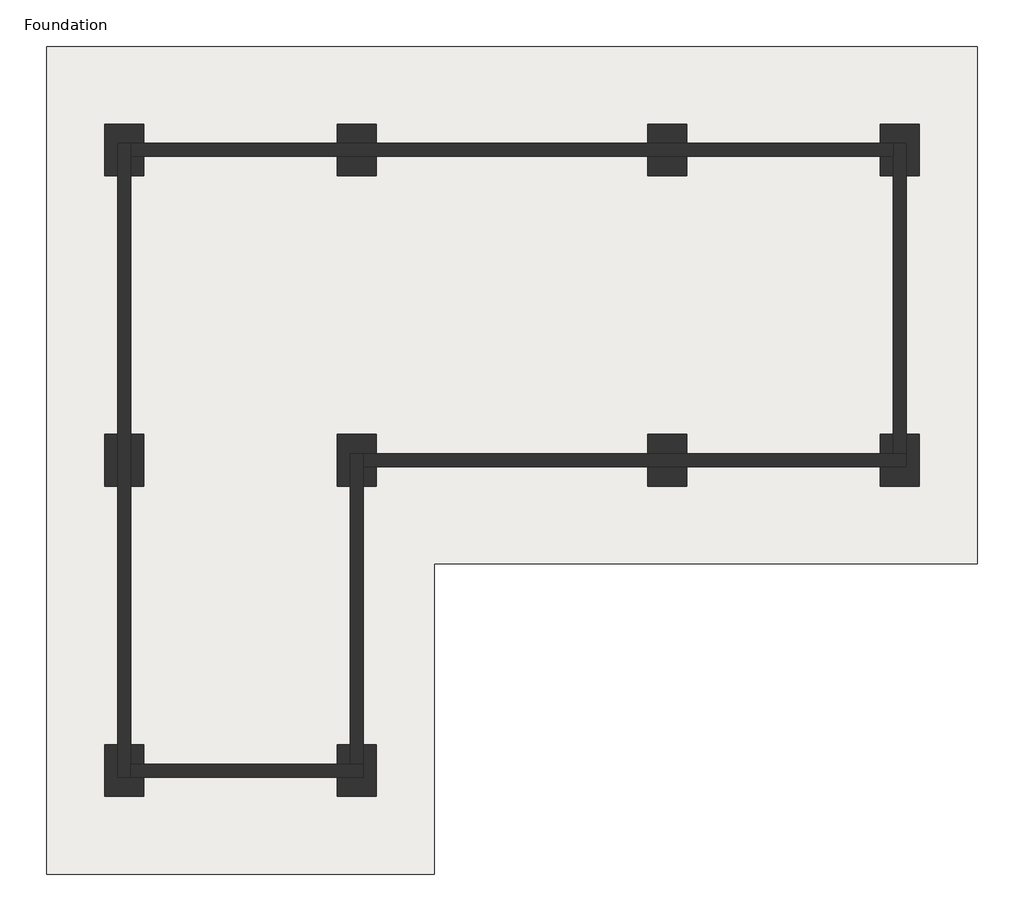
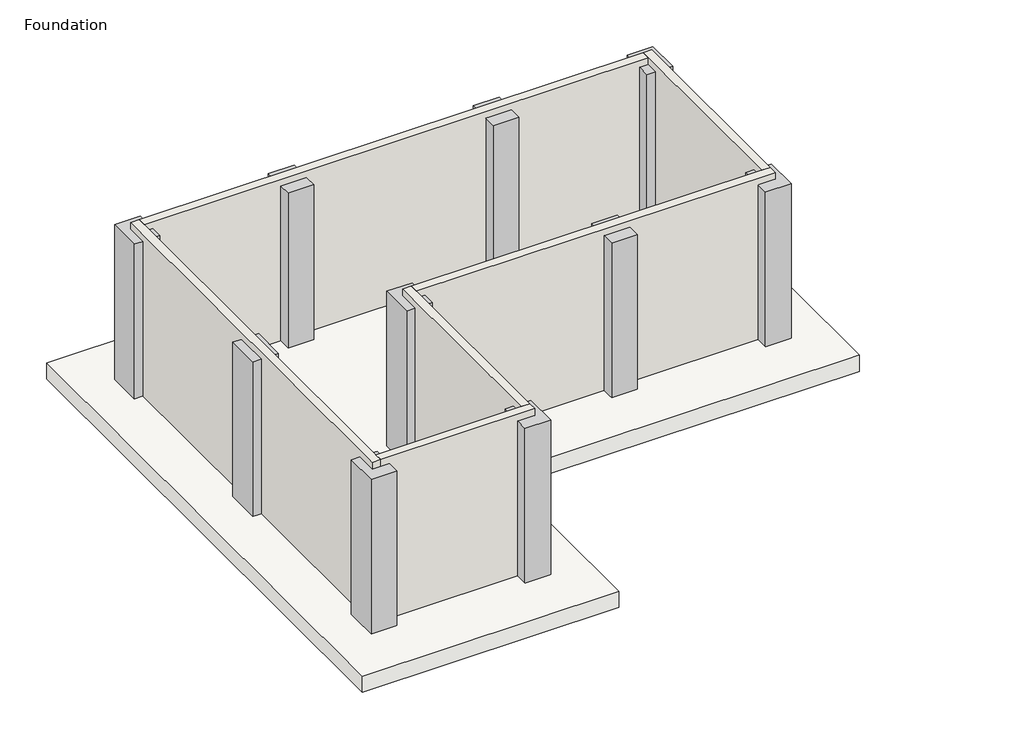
# One storey: 11 slabs, 10 columns, 6 walls.
"""IFC4 building model written with IfcOpenShell, lengths in millimetres."""

import ifcopenshell
import ifcopenshell.guid

model = None  # the IFC model being written
_history = None  # IfcOwnerHistory: only IFC2X3 demands one
_inside = {}  # id of a spatial element -> (the spatial element, [elements in it])
_under = {}  # id of a project, library or spatial element -> (it, [spatial elements below it])
_declared = {}  # id of a project -> (the project, [libraries it declares])
_typed = {}  # id of a type object -> (the type object, [elements of that type])
_made_of = {}  # id of a material, layer set ... -> (it, [elements and type objects made of it])


def new_model(schema):
    """Start an empty IFC model of exactly this schema.

    Asked for "IFC4X3", IfcOpenShell would pick the latest addendum, in which some entities
    have other attributes; the version numbers below select the first issue.
    IFC2X3 requires an IfcOwnerHistory on every rooted entity: one is made here for all.
    """
    global model, _history
    if schema == "IFC4X3":
        model = ifcopenshell.file(schema_version=(4, 3, 0, 0))
    else:
        model = ifcopenshell.file(schema=schema)
    _inside.clear()
    _under.clear()
    _declared.clear()
    _typed.clear()
    _made_of.clear()
    _history = None
    if model.schema == "IFC2X3":
        org = make("IfcOrganization", Name="unknown")
        user = make(
            "IfcPersonAndOrganization",
            ThePerson=make("IfcPerson", FamilyName="unknown"),
            TheOrganization=org,
        )
        app = make(
            "IfcApplication",
            ApplicationDeveloper=org,
            Version="unknown",
            ApplicationFullName="unknown",
            ApplicationIdentifier="unknown",
        )
        _history = make(
            "IfcOwnerHistory",
            OwningUser=user,
            OwningApplication=app,
            ChangeAction="ADDED",
            CreationDate=0,
        )
    return model


def make(cls, **values):
    """One entity of the class cls with the attributes given. An attribute that is None is left unset."""
    return model.create_entity(
        cls, **{name: value for name, value in values.items() if value is not None}
    )


def rooted(cls, **values):
    """An entity with a GlobalId (a new one), such as an element, a storey or a relation."""
    return make(cls, GlobalId=ifcopenshell.guid.new(), OwnerHistory=_history, **values)


def si_unit(unit_type, name, prefix=None):
    """IfcSIUnit, for example si_unit("LENGTHUNIT", "METRE", prefix="MILLI")."""
    return make("IfcSIUnit", UnitType=unit_type, Prefix=prefix, Name=name)


def assignment(units):
    """IfcUnitAssignment: the units of a project."""
    return None if units is None else make("IfcUnitAssignment", Units=units)


def point(xyz):
    """IfcCartesianPoint."""
    return None if xyz is None else make("IfcCartesianPoint", Coordinates=xyz)


def direction(xyz):
    """IfcDirection."""
    return None if xyz is None else make("IfcDirection", DirectionRatios=xyz)


def frame(location, z_axis=None, x_axis=None):
    """IfcAxis2Placement3D, a coordinate frame: its origin and axes. An axis left out is left unset."""
    return make(
        "IfcAxis2Placement3D",
        Location=point(location),
        Axis=direction(z_axis),
        RefDirection=direction(x_axis),
    )


def origin():
    """The frame at (0, 0, 0) with its axes left unset."""
    return frame((0.0, 0.0, 0.0))


def origin_with_axes():
    """The frame at (0, 0, 0) with the z axis (0, 0, 1) and the x axis (1, 0, 0) written out."""
    return frame((0.0, 0.0, 0.0), z_axis=(0.0, 0.0, 1.0), x_axis=(1.0, 0.0, 0.0))


def place(relative_to, where):
    """IfcLocalPlacement: puts the frame where relative to a parent placement (None: the world)."""
    return make(
        "IfcLocalPlacement", PlacementRelTo=relative_to, RelativePlacement=where
    )


def context(
    kind, dimensions, precision=None, world=None, true_north=None, identifier=None
):
    """IfcGeometricRepresentationContext, for example the 3D "Model" context."""
    return make(
        "IfcGeometricRepresentationContext",
        ContextIdentifier=identifier,
        ContextType=kind,
        CoordinateSpaceDimension=dimensions,
        Precision=precision,
        WorldCoordinateSystem=world,
        TrueNorth=true_north,
    )


def project(units=None, contexts=None):
    """IfcProject with its units and contexts."""
    return rooted(
        "IfcProject",
        Name="project",
        RepresentationContexts=contexts,
        UnitsInContext=assignment(units),
    )


def spatial(cls, under=None, at=None, **own):
    """A site, building, storey or space (cls), placed at a placement, below another one or the project."""
    s = rooted(cls, ObjectPlacement=at, **own)
    if under is not None:
        _under.setdefault(under.id(), (under, []))[1].append(s)
    return s


def polyline(points):
    """IfcPolyline through the points."""
    return make("IfcPolyline", Points=[point(p) for p in points])


def outline(outer, holes=None, kind="AREA"):
    """IfcArbitraryClosedProfileDef: a profile drawn as a closed curve; with holes, ...WithVoids."""
    if holes is None:
        return make("IfcArbitraryClosedProfileDef", ProfileType=kind, OuterCurve=outer)
    return make(
        "IfcArbitraryProfileDefWithVoids",
        ProfileType=kind,
        OuterCurve=outer,
        InnerCurves=holes,
    )


def extrude(swept, where, along, depth):
    """IfcExtrudedAreaSolid: the profile swept, set in the frame where, extruded along a direction by depth."""
    return make(
        "IfcExtrudedAreaSolid",
        SweptArea=swept,
        Position=where,
        ExtrudedDirection=direction(along),
        Depth=depth,
    )


def faces_of(points, faces, orient=None, outer=None):
    """IfcFace entities. A face is a list of loops; a loop is a list of indices into points, from 0.

    orient and outer hold one flag for each loop. By default every Orientation is true, the
    first loop of a face is its IfcFaceOuterBound and the others are IfcFaceBound.
    """
    made = []
    for i, loops in enumerate(faces):
        bounds = []
        for j, loop in enumerate(loops):
            is_outer = j == 0 if outer is None else outer[i][j]
            bounds.append(
                make(
                    "IfcFaceOuterBound" if is_outer else "IfcFaceBound",
                    Bound=make("IfcPolyLoop", Polygon=[points[k] for k in loop]),
                    Orientation=True if orient is None else orient[i][j],
                )
            )
        made.append(make("IfcFace", Bounds=bounds))
    return made


def faceted_brep(points, faces, orient=None, outer=None, voids=None):
    """IfcFacetedBrep: a solid bounded by flat faces; with voids (closed shells), ...WithVoids."""
    shared = [point(p) for p in points]
    hull = make("IfcClosedShell", CfsFaces=faces_of(shared, faces, orient, outer))
    if voids is None:
        return make("IfcFacetedBrep", Outer=hull)
    return make(
        "IfcFacetedBrepWithVoids",
        Outer=hull,
        Voids=[
            make(cls, CfsFaces=faces_of(shared, fs, o, b)) for cls, fs, o, b in voids
        ],
    )


def shape(context_of_items, identifier, shape_type, items):
    """IfcShapeRepresentation: the items that make up one representation, for example the "Body"."""
    return make(
        "IfcShapeRepresentation",
        ContextOfItems=context_of_items,
        RepresentationIdentifier=identifier,
        RepresentationType=shape_type,
        Items=items,
    )


def made_of(thing, what):
    """Note that an element or type object is made of a material, layer set ...; save() writes the relation."""
    if what is not None:
        _made_of.setdefault(what.id(), (what, []))[1].append(thing)
    return thing


def element(
    cls,
    number,
    at=None,
    inside=None,
    cuts=None,
    type_object=None,
    material=None,
    context=None,
    identifier="Body",
    shape_type=None,
    held_by="IfcProductDefinitionShape",
    body=None,
    shapes=None,
    **own,
):
    """One element of the class cls, such as IfcWall. Its Tag is "e" and its number.

    at: its placement. inside: the storey or other place that contains it. cuts: it is an
    opening in that element (IfcRelVoidsElement). A single representation is given by context,
    identifier, shape_type and body (its items); several are given by shapes. held_by: the class
    of the entity that holds the representations. save() writes the other relations.
    """
    e = rooted(cls, Tag="e%d" % number, ObjectPlacement=at, **own)
    if body is not None:
        shapes = [shape(context, identifier, shape_type, body)]
    if shapes is not None:
        e.Representation = make(held_by, Representations=shapes)
    if inside is not None:
        _inside.setdefault(inside.id(), (inside, []))[1].append(e)
    if cuts is not None:
        rooted(
            "IfcRelVoidsElement", RelatingBuildingElement=cuts, RelatedOpeningElement=e
        )
    if type_object is not None:
        _typed.setdefault(type_object.id(), (type_object, []))[1].append(e)
    return made_of(e, material)


def aggregate(whole, parts):
    """IfcRelAggregates: a whole, such as a stair, and the parts it consists of."""
    return rooted("IfcRelAggregates", RelatingObject=whole, RelatedObjects=parts)


def save(model, path):
    """Write the relations noted so far, then the file.

    IfcRelAggregates (storeys below a building ...), IfcRelContainedInSpatialStructure (elements
    in a storey), IfcRelDefinesByType, IfcRelAssociatesMaterial and IfcRelDeclares: one each for
    every whole, place, type object, material and project.
    """
    for whole, parts in _under.values():
        aggregate(whole, parts)
    for where, things in _inside.values():
        rooted(
            "IfcRelContainedInSpatialStructure",
            RelatedElements=things,
            RelatingStructure=where,
        )
    for kind, things in _typed.values():
        rooted("IfcRelDefinesByType", RelatedObjects=things, RelatingType=kind)
    for what, things in _made_of.values():
        rooted("IfcRelAssociatesMaterial", RelatedObjects=things, RelatingMaterial=what)
    for by, libraries in _declared.values():
        rooted("IfcRelDeclares", RelatingContext=by, RelatedDefinitions=libraries)
    model.write(path)


model = new_model("IFC4")

# Units and contexts
model_context = context("Model", 3, world=origin())
ifc_project = project(units=[si_unit("LENGTHUNIT", "METRE", prefix="MILLI")], contexts=[model_context])

# Site, building, storey
site = spatial("IfcSite", under=ifc_project)
building = spatial("IfcBuilding", under=site)
storey = spatial("IfcBuildingStorey", under=building, Name="Foundation", Elevation=0.0)

# Columns
placement = place(None, origin())
element("IfcColumn", 1, ObjectType="Concrete-Rectangular-Column : 18 x 24", at=placement, inside=storey, context=model_context, shape_type="Brep", body=[
    faceted_brep([(-23541.218666, 15553.4753347, 0.0), (-23541.218666, 16163.0753347, 0.0), (-23084.018666, 16163.0753347, 0.0), (-23084.018666, 15934.4753347, 0.0), (-23236.418666, 15934.4753347, 0.0), (-23388.818666, 15934.4753347, 0.0), (-23388.818666, 15553.4753347, 0.0), (-23541.218666, 15553.4753347, 2921.0), (-23388.818666, 15553.4753347, 2921.0), (-23541.218666, 16163.0753347, 2921.0), (-23084.018666, 16163.0753347, 2921.0), (-23388.818666, 15934.4753347, 2921.0), (-23084.018666, 15934.4753347, 2921.0)], [[[0, 1, 2, 3, 4, 5, 6]], [[7, 0, 6, 8]], [[1, 0, 7, 9]], [[2, 1, 9, 10]], [[9, 7, 8, 11, 12, 10]], [[6, 5, 11, 8]], [[3, 12, 11, 5, 4]], [[2, 10, 12, 3]]]),
    faceted_brep([(-23084.018666, 15553.4753347, 2921.0), (-23084.018666, 15553.4753347, 0.0), (-23084.018666, 15782.0753347, 0.0), (-23084.018666, 15782.0753347, 2921.0), (-23236.418666, 15553.4753347, 0.0), (-23236.418666, 15553.4753347, 2921.0), (-23236.418666, 15782.0753347, 2921.0), (-23236.418666, 15782.0753347, 0.0)], [[[0, 1, 2, 3]], [[4, 5, 6, 7]], [[2, 7, 6, 3]], [[1, 4, 7, 2]], [[1, 0, 5, 4]], [[5, 0, 3, 6]]]),
])
element("IfcColumn", 2, ObjectType="Concrete-Rectangular-Column : 18 x 24", at=placement, inside=storey, context=model_context, shape_type="SweptSolid", body=[
    extrude(outline(polyline([(-20798.018666, 16163.0753347), (-20340.818666, 16163.0753347), (-20340.818666, 15934.4753347), (-20798.018666, 15934.4753347), (-20798.018666, 16163.0753347)])), origin_with_axes(), (0.0, 0.0, 1.0), 2921.0),
    extrude(outline(polyline([(-20340.818666, 15553.4753347), (-20798.018666, 15553.4753347), (-20798.018666, 15782.0753347), (-20340.818666, 15782.0753347), (-20340.818666, 15553.4753347)])), origin_with_axes(), (0.0, 0.0, 1.0), 2921.0),
])
element("IfcColumn", 3, ObjectType="Concrete-Rectangular-Column : 18 x 24", at=placement, inside=storey, context=model_context, shape_type="SweptSolid", body=[
    extrude(outline(polyline([(-17140.418666, 16163.0753347), (-16683.218666, 16163.0753347), (-16683.218666, 15934.4753347), (-17140.418666, 15934.4753347), (-17140.418666, 16163.0753347)])), origin_with_axes(), (0.0, 0.0, 1.0), 2921.0),
    extrude(outline(polyline([(-16683.218666, 15553.4753347), (-17140.418666, 15553.4753347), (-17140.418666, 15782.0753347), (-16683.218666, 15782.0753347), (-16683.218666, 15553.4753347)])), origin_with_axes(), (0.0, 0.0, 1.0), 2921.0),
])
element("IfcColumn", 4, ObjectType="Concrete-Rectangular-Column : 18 x 24", at=placement, inside=storey, context=model_context, shape_type="Brep", body=[
    faceted_brep([(-14244.818666, 15553.4753347, 0.0), (-14397.218666, 15553.4753347, 0.0), (-14397.218666, 15782.0753347, 0.0), (-14244.818666, 15782.0753347, 0.0), (-14397.218666, 15553.4753347, 2921.0), (-14244.818666, 15553.4753347, 2921.0), (-14244.818666, 15782.0753347, 2921.0), (-14397.218666, 15782.0753347, 2921.0)], [[[0, 1, 2, 3]], [[4, 1, 0, 5]], [[4, 5, 6, 7]], [[5, 0, 3, 6]], [[3, 2, 7, 6]], [[1, 4, 7, 2]]]),
    faceted_brep([(-13940.018666, 15553.4753347, 0.0), (-13940.018666, 16163.0753347, 0.0), (-13940.018666, 16163.0753347, 2921.0), (-13940.018666, 15553.4753347, 2921.0), (-14397.218666, 16163.0753347, 2921.0), (-14397.218666, 16163.0753347, 0.0), (-14397.218666, 15934.4753347, 0.0), (-14397.218666, 15934.4753347, 2921.0), (-14092.418666, 15934.4753347, 0.0), (-14092.418666, 15553.4753347, 0.0), (-14092.418666, 15553.4753347, 2921.0), (-14092.418666, 15934.4753347, 2921.0), (-14244.818666, 15934.4753347, 0.0)], [[[0, 1, 2, 3]], [[4, 5, 6, 7]], [[1, 5, 4, 2]], [[8, 9, 10, 11]], [[8, 11, 7, 6, 12]], [[1, 0, 9, 8, 12, 6, 5]], [[0, 3, 10, 9]], [[3, 2, 4, 7, 11, 10]]]),
])
element("IfcColumn", 5, ObjectType="Concrete-Rectangular-Column : 18 x 24", at=placement, inside=storey, context=model_context, shape_type="SweptSolid", body=[
    extrude(outline(polyline([(-23541.218666, 11895.8753347), (-23541.218666, 12505.4753347), (-23388.818666, 12505.4753347), (-23388.818666, 11895.8753347), (-23541.218666, 11895.8753347)])), origin_with_axes(), (0.0, 0.0, 1.0), 2921.0),
    extrude(outline(polyline([(-23084.018666, 12505.4753347), (-23084.018666, 11895.8753347), (-23236.418666, 11895.8753347), (-23236.418666, 12505.4753347), (-23084.018666, 12505.4753347)])), origin_with_axes(), (0.0, 0.0, 1.0), 2921.0),
])
element("IfcColumn", 6, ObjectType="Concrete-Rectangular-Column : 18 x 24", at=placement, inside=storey, context=model_context, shape_type="Brep", body=[
    faceted_brep([(-20798.018666, 11895.8753347, 0.0), (-20798.018666, 12505.4753347, 0.0), (-20340.818666, 12505.4753347, 0.0), (-20340.818666, 12276.8753347, 0.0), (-20493.218666, 12276.8753347, 0.0), (-20645.618666, 12276.8753347, 0.0), (-20645.618666, 11895.8753347, 0.0), (-20798.018666, 11895.8753347, 2921.0), (-20645.618666, 11895.8753347, 2921.0), (-20798.018666, 12505.4753347, 2921.0), (-20340.818666, 12505.4753347, 2921.0), (-20645.618666, 12276.8753347, 2921.0), (-20340.818666, 12276.8753347, 2921.0)], [[[0, 1, 2, 3, 4, 5, 6]], [[7, 0, 6, 8]], [[1, 0, 7, 9]], [[2, 1, 9, 10]], [[9, 7, 8, 11, 12, 10]], [[6, 5, 11, 8]], [[3, 12, 11, 5, 4]], [[2, 10, 12, 3]]]),
    faceted_brep([(-20340.818666, 11895.8753347, 2921.0), (-20340.818666, 11895.8753347, 0.0), (-20340.818666, 12124.4753347, 0.0), (-20340.818666, 12124.4753347, 2921.0), (-20493.218666, 11895.8753347, 0.0), (-20493.218666, 11895.8753347, 2921.0), (-20493.218666, 12124.4753347, 2921.0), (-20493.218666, 12124.4753347, 0.0)], [[[0, 1, 2, 3]], [[4, 5, 6, 7]], [[2, 7, 6, 3]], [[1, 4, 7, 2]], [[1, 0, 5, 4]], [[5, 0, 3, 6]]]),
])
element("IfcColumn", 7, ObjectType="Concrete-Rectangular-Column : 18 x 24", at=placement, inside=storey, context=model_context, shape_type="SweptSolid", body=[
    extrude(outline(polyline([(-17140.418666, 12505.4753347), (-16683.218666, 12505.4753347), (-16683.218666, 12276.8753347), (-17140.418666, 12276.8753347), (-17140.418666, 12505.4753347)])), origin_with_axes(), (0.0, 0.0, 1.0), 2921.0),
    extrude(outline(polyline([(-16683.218666, 11895.8753347), (-17140.418666, 11895.8753347), (-17140.418666, 12124.4753347), (-16683.218666, 12124.4753347), (-16683.218666, 11895.8753347)])), origin_with_axes(), (0.0, 0.0, 1.0), 2921.0),
])
element("IfcColumn", 8, ObjectType="Concrete-Rectangular-Column : 18 x 24", at=placement, inside=storey, context=model_context, shape_type="Brep", body=[
    faceted_brep([(-14397.218666, 12276.8753347, 0.0), (-14397.218666, 12505.4753347, 0.0), (-14244.818666, 12505.4753347, 0.0), (-14244.818666, 12276.8753347, 0.0), (-14397.218666, 12505.4753347, 2921.0), (-14397.218666, 12276.8753347, 2921.0), (-14244.818666, 12505.4753347, 2921.0), (-14244.818666, 12276.8753347, 2921.0)], [[[0, 1, 2, 3]], [[4, 1, 0, 5]], [[1, 4, 6, 2]], [[4, 5, 7, 6]], [[5, 0, 3, 7]], [[3, 2, 6, 7]]]),
    faceted_brep([(-13940.018666, 11895.8753347, 0.0), (-13940.018666, 12505.4753347, 0.0), (-13940.018666, 12505.4753347, 2921.0), (-13940.018666, 11895.8753347, 2921.0), (-14397.218666, 11895.8753347, 0.0), (-14397.218666, 11895.8753347, 2921.0), (-14092.418666, 12124.4753347, 0.0), (-14397.218666, 12124.4753347, 0.0), (-14397.218666, 12124.4753347, 2921.0), (-14092.418666, 12124.4753347, 2921.0), (-14092.418666, 12505.4753347, 2921.0), (-14092.418666, 12505.4753347, 0.0), (-14092.418666, 12276.8753347, 0.0)], [[[0, 1, 2, 3]], [[4, 0, 3, 5]], [[6, 7, 8, 9]], [[6, 9, 10, 11, 12]], [[1, 0, 4, 7, 6, 12, 11]], [[4, 5, 8, 7]], [[2, 1, 11, 10]], [[3, 2, 10, 9, 8, 5]]]),
])
element("IfcColumn", 9, ObjectType="Concrete-Rectangular-Column : 18 x 24", at=placement, inside=storey, context=model_context, shape_type="Brep", body=[
    faceted_brep([(-23236.418666, 8847.8753347, 0.0), (-23084.018666, 8847.8753347, 0.0), (-23084.018666, 8619.2753347, 0.0), (-23236.418666, 8619.2753347, 0.0), (-23236.418666, 8847.8753347, 2921.0), (-23236.418666, 8619.2753347, 2921.0), (-23084.018666, 8619.2753347, 2921.0), (-23084.018666, 8847.8753347, 2921.0)], [[[0, 1, 2, 3]], [[4, 0, 3, 5]], [[3, 2, 6, 5]], [[7, 1, 0, 4]], [[1, 7, 6, 2]], [[7, 4, 5, 6]]]),
    faceted_brep([(-23084.018666, 8238.2753347, 2921.0), (-23084.018666, 8238.2753347, 0.0), (-23084.018666, 8466.8753347, 0.0), (-23084.018666, 8466.8753347, 2921.0), (-23541.218666, 8238.2753347, 0.0), (-23541.218666, 8238.2753347, 2921.0), (-23541.218666, 8847.8753347, 0.0), (-23541.218666, 8847.8753347, 2921.0), (-23388.818666, 8847.8753347, 2921.0), (-23388.818666, 8847.8753347, 0.0), (-23388.818666, 8466.8753347, 2921.0), (-23388.818666, 8466.8753347, 0.0), (-23236.418666, 8466.8753347, 0.0)], [[[0, 1, 2, 3]], [[4, 1, 0, 5]], [[6, 4, 5, 7]], [[6, 7, 8, 9]], [[5, 0, 3, 10, 8, 7]], [[11, 9, 8, 10]], [[11, 10, 3, 2, 12]], [[1, 4, 6, 9, 11, 12, 2]]]),
])
element("IfcColumn", 10, ObjectType="Concrete-Rectangular-Column : 18 x 24", at=placement, inside=storey, context=model_context, shape_type="Brep", body=[
    faceted_brep([(-20798.018666, 8619.2753347, 0.0), (-20798.018666, 8847.8753347, 0.0), (-20645.618666, 8847.8753347, 0.0), (-20645.618666, 8619.2753347, 0.0), (-20798.018666, 8847.8753347, 2921.0), (-20798.018666, 8619.2753347, 2921.0), (-20645.618666, 8847.8753347, 2921.0), (-20645.618666, 8619.2753347, 2921.0)], [[[0, 1, 2, 3]], [[4, 1, 0, 5]], [[1, 4, 6, 2]], [[4, 5, 7, 6]], [[5, 0, 3, 7]], [[3, 2, 6, 7]]]),
    faceted_brep([(-20340.818666, 8238.2753347, 0.0), (-20340.818666, 8847.8753347, 0.0), (-20340.818666, 8847.8753347, 2921.0), (-20340.818666, 8238.2753347, 2921.0), (-20798.018666, 8238.2753347, 0.0), (-20798.018666, 8238.2753347, 2921.0), (-20493.218666, 8466.8753347, 0.0), (-20798.018666, 8466.8753347, 0.0), (-20798.018666, 8466.8753347, 2921.0), (-20493.218666, 8466.8753347, 2921.0), (-20493.218666, 8847.8753347, 2921.0), (-20493.218666, 8847.8753347, 0.0), (-20493.218666, 8619.2753347, 0.0)], [[[0, 1, 2, 3]], [[4, 0, 3, 5]], [[6, 7, 8, 9]], [[6, 9, 10, 11, 12]], [[1, 0, 4, 7, 6, 12, 11]], [[4, 5, 8, 7]], [[2, 1, 11, 10]], [[3, 2, 10, 9, 8, 5]]]),
])

# Slabs
element("IfcSlab", 11, ObjectType="12\" Foundation Slab", at=placement, inside=storey, context=model_context, shape_type="SweptSolid", body=[
    extrude(outline(polyline([(-24227.018666, 7323.8753347), (-24227.018666, 17077.4753347), (-13254.218666, 17077.4753347), (-13254.218666, 10981.4753347), (-19655.018666, 10981.4753347), (-19655.018666, 7323.8753347), (-24227.018666, 7323.8753347)])), frame((0.0, 0.0, -304.8), z_axis=(0.0, 0.0, 1.0), x_axis=(1.0, 0.0, 0.0)), (0.0, 0.0, 1.0), 304.8),
])
element("IfcSlab", 12, ObjectType="Footing-Rectangular : 72\" x 48\" x 18\"", at=placement, inside=storey, context=model_context, shape_type="SweptSolid", body=[
    extrude(outline(polyline([(-22703.018666, 9457.4753347), (-22703.018666, 7628.6753347), (-23922.218666, 7628.6753347), (-23922.218666, 9457.4753347), (-22703.018666, 9457.4753347)])), frame((0.0, 0.0, -457.2), z_axis=(0.0, 0.0, 1.0), x_axis=(1.0, 0.0, 0.0)), (0.0, 0.0, 1.0), 152.4),
])
element("IfcSlab", 13, ObjectType="Footing-Rectangular : 72\" x 48\" x 18\"", at=placement, inside=storey, context=model_context, shape_type="SweptSolid", body=[
    extrude(outline(polyline([(-19959.818666, 9457.4753347), (-19959.818666, 7628.6753347), (-21179.018666, 7628.6753347), (-21179.018666, 9457.4753347), (-19959.818666, 9457.4753347)])), frame((0.0, 0.0, -457.2), z_axis=(0.0, 0.0, 1.0), x_axis=(1.0, 0.0, 0.0)), (0.0, 0.0, 1.0), 152.4),
])
element("IfcSlab", 14, ObjectType="Footing-Rectangular : 72\" x 48\" x 18\"", at=placement, inside=storey, context=model_context, shape_type="SweptSolid", body=[
    extrude(outline(polyline([(-22703.018666, 16772.6753347), (-22703.018666, 14943.8753347), (-23922.218666, 14943.8753347), (-23922.218666, 16772.6753347), (-22703.018666, 16772.6753347)])), frame((0.0, 0.0, -457.2), z_axis=(0.0, 0.0, 1.0), x_axis=(1.0, 0.0, 0.0)), (0.0, 0.0, 1.0), 152.4),
])
element("IfcSlab", 15, ObjectType="Footing-Rectangular : 72\" x 48\" x 18\"", at=placement, inside=storey, context=model_context, shape_type="SweptSolid", body=[
    extrude(outline(polyline([(-19959.818666, 16772.6753347), (-19959.818666, 14943.8753347), (-21179.018666, 14943.8753347), (-21179.018666, 16772.6753347), (-19959.818666, 16772.6753347)])), frame((0.0, 0.0, -457.2), z_axis=(0.0, 0.0, 1.0), x_axis=(1.0, 0.0, 0.0)), (0.0, 0.0, 1.0), 152.4),
])
element("IfcSlab", 16, ObjectType="Footing-Rectangular : 72\" x 48\" x 18\"", at=placement, inside=storey, context=model_context, shape_type="SweptSolid", body=[
    extrude(outline(polyline([(-16302.218666, 16772.6753347), (-16302.218666, 14943.8753347), (-17521.418666, 14943.8753347), (-17521.418666, 16772.6753347), (-16302.218666, 16772.6753347)])), frame((0.0, 0.0, -457.2), z_axis=(0.0, 0.0, 1.0), x_axis=(1.0, 0.0, 0.0)), (0.0, 0.0, 1.0), 152.4),
])
element("IfcSlab", 17, ObjectType="Footing-Rectangular : 72\" x 48\" x 18\"", at=placement, inside=storey, context=model_context, shape_type="SweptSolid", body=[
    extrude(outline(polyline([(-13559.018666, 16772.6753347), (-13559.018666, 14943.8753347), (-14778.218666, 14943.8753347), (-14778.218666, 16772.6753347), (-13559.018666, 16772.6753347)])), frame((0.0, 0.0, -457.2), z_axis=(0.0, 0.0, 1.0), x_axis=(1.0, 0.0, 0.0)), (0.0, 0.0, 1.0), 152.4),
])
element("IfcSlab", 18, ObjectType="Footing-Rectangular : 72\" x 48\" x 18\"", at=placement, inside=storey, context=model_context, shape_type="SweptSolid", body=[
    extrude(outline(polyline([(-22703.018666, 13115.0753347), (-22703.018666, 11286.2753347), (-23922.218666, 11286.2753347), (-23922.218666, 13115.0753347), (-22703.018666, 13115.0753347)])), frame((0.0, 0.0, -457.2), z_axis=(0.0, 0.0, 1.0), x_axis=(1.0, 0.0, 0.0)), (0.0, 0.0, 1.0), 152.4),
])
element("IfcSlab", 19, ObjectType="Footing-Rectangular : 72\" x 48\" x 18\"", at=placement, inside=storey, context=model_context, shape_type="SweptSolid", body=[
    extrude(outline(polyline([(-19959.818666, 13115.0753347), (-19959.818666, 11286.2753347), (-21179.018666, 11286.2753347), (-21179.018666, 13115.0753347), (-19959.818666, 13115.0753347)])), frame((0.0, 0.0, -457.2), z_axis=(0.0, 0.0, 1.0), x_axis=(1.0, 0.0, 0.0)), (0.0, 0.0, 1.0), 152.4),
])
element("IfcSlab", 20, ObjectType="Footing-Rectangular : 72\" x 48\" x 18\"", at=placement, inside=storey, context=model_context, shape_type="SweptSolid", body=[
    extrude(outline(polyline([(-16302.218666, 13115.0753347), (-16302.218666, 11286.2753347), (-17521.418666, 11286.2753347), (-17521.418666, 13115.0753347), (-16302.218666, 13115.0753347)])), frame((0.0, 0.0, -457.2), z_axis=(0.0, 0.0, 1.0), x_axis=(1.0, 0.0, 0.0)), (0.0, 0.0, 1.0), 152.4),
])
element("IfcSlab", 21, ObjectType="Footing-Rectangular : 72\" x 48\" x 18\"", at=placement, inside=storey, context=model_context, shape_type="SweptSolid", body=[
    extrude(outline(polyline([(-13559.018666, 13115.0753347), (-13559.018666, 11286.2753347), (-14778.218666, 11286.2753347), (-14778.218666, 13115.0753347), (-13559.018666, 13115.0753347)])), frame((0.0, 0.0, -457.2), z_axis=(0.0, 0.0, 1.0), x_axis=(1.0, 0.0, 0.0)), (0.0, 0.0, 1.0), 152.4),
])

# Walls
element("IfcWall", 22, ObjectType="Retaining - 6\" Concrete", at=placement, inside=storey, context=model_context, shape_type="Brep", body=[
    faceted_brep([(-23388.818666, 15934.4753347, 0.0), (-23388.818666, 15553.4753347, 0.0), (-23388.818666, 12505.4753347, 0.0), (-23388.818666, 11895.8753347, 0.0), (-23388.818666, 8847.8753347, 0.0), (-23388.818666, 8466.8753347, 0.0), (-23388.818666, 8466.8753347, 2921.0), (-23388.818666, 8466.8753347, 3048.0), (-23388.818666, 15934.4753347, 3048.0), (-23388.818666, 15934.4753347, 2921.0), (-23236.418666, 15934.4753347, 0.0), (-23236.418666, 15934.4753347, 3048.0), (-23236.418666, 15782.0753347, 3048.0), (-23236.418666, 8619.2753347, 3048.0), (-23236.418666, 8466.8753347, 3048.0), (-23236.418666, 8466.8753347, 0.0), (-23236.418666, 8619.2753347, 0.0), (-23236.418666, 8847.8753347, 0.0), (-23236.418666, 11895.8753347, 0.0), (-23236.418666, 12505.4753347, 0.0), (-23236.418666, 15553.4753347, 0.0), (-23236.418666, 15782.0753347, 0.0)], [[[0, 1, 2, 3, 4, 5, 6, 7, 8, 9]], [[10, 11, 12, 13, 14, 15, 16, 17, 18, 19, 20, 21]], [[5, 4, 3, 2, 1, 0, 10, 21, 20, 19, 18, 17, 16, 15]], [[8, 7, 14, 13, 12, 11]], [[7, 6, 5, 15, 14]], [[0, 9, 8, 11, 10]]]),
])
element("IfcWall", 23, ObjectType="Retaining - 6\" Concrete", at=placement, inside=storey, context=model_context, shape_type="Brep", body=[
    faceted_brep([(-23236.418666, 8466.8753347, 0.0), (-23084.018666, 8466.8753347, 0.0), (-20798.018666, 8466.8753347, 0.0), (-20493.218666, 8466.8753347, 0.0), (-20493.218666, 8466.8753347, 2921.0), (-20493.218666, 8466.8753347, 3048.0), (-23236.418666, 8466.8753347, 3048.0), (-23236.418666, 8619.2753347, 0.0), (-23236.418666, 8619.2753347, 2921.0), (-23236.418666, 8619.2753347, 3048.0), (-20645.618666, 8619.2753347, 3048.0), (-20493.218666, 8619.2753347, 3048.0), (-20493.218666, 8619.2753347, 0.0), (-20645.618666, 8619.2753347, 0.0), (-20798.018666, 8619.2753347, 0.0), (-23084.018666, 8619.2753347, 0.0)], [[[0, 1, 2, 3, 4, 5, 6]], [[7, 8, 9, 10, 11, 12, 13, 14, 15]], [[3, 2, 1, 0, 7, 15, 14, 13, 12]], [[6, 5, 11, 10, 9]], [[0, 6, 9, 8, 7]], [[5, 4, 3, 12, 11]]]),
])
element("IfcWall", 24, ObjectType="Retaining - 6\" Concrete", at=placement, inside=storey, context=model_context, shape_type="Brep", body=[
    faceted_brep([(-20493.218666, 8619.2753347, 0.0), (-20493.218666, 8847.8753347, 0.0), (-20493.218666, 11895.8753347, 0.0), (-20493.218666, 12124.4753347, 0.0), (-20493.218666, 12276.8753347, 0.0), (-20493.218666, 12276.8753347, 3048.0), (-20493.218666, 12124.4753347, 3048.0), (-20493.218666, 8619.2753347, 3048.0), (-20645.618666, 8619.2753347, 0.0), (-20645.618666, 8619.2753347, 2921.0), (-20645.618666, 8619.2753347, 3048.0), (-20645.618666, 12276.8753347, 3048.0), (-20645.618666, 12276.8753347, 2921.0), (-20645.618666, 12276.8753347, 0.0), (-20645.618666, 11895.8753347, 0.0), (-20645.618666, 8847.8753347, 0.0)], [[[0, 1, 2, 3, 4, 5, 6, 7]], [[8, 9, 10, 11, 12, 13, 14, 15]], [[4, 3, 2, 1, 0, 8, 15, 14, 13]], [[7, 6, 5, 11, 10]], [[0, 7, 10, 9, 8]], [[5, 4, 13, 12, 11]]]),
])
element("IfcWall", 25, ObjectType="Retaining - 6\" Concrete", at=placement, inside=storey, context=model_context, shape_type="Brep", body=[
    faceted_brep([(-20493.218666, 12124.4753347, 0.0), (-20340.818666, 12124.4753347, 0.0), (-17140.418666, 12124.4753347, 0.0), (-16683.218666, 12124.4753347, 0.0), (-14397.218666, 12124.4753347, 0.0), (-14092.418666, 12124.4753347, 0.0), (-14092.418666, 12124.4753347, 2921.0), (-14092.418666, 12124.4753347, 3048.0), (-20493.218666, 12124.4753347, 3048.0), (-20493.218666, 12124.4753347, 2921.0), (-20493.218666, 12276.8753347, 0.0), (-20493.218666, 12276.8753347, 3048.0), (-14244.818666, 12276.8753347, 3048.0), (-14092.418666, 12276.8753347, 3048.0), (-14092.418666, 12276.8753347, 0.0), (-14244.818666, 12276.8753347, 0.0), (-14397.218666, 12276.8753347, 0.0), (-16683.218666, 12276.8753347, 0.0), (-17140.418666, 12276.8753347, 0.0), (-20340.818666, 12276.8753347, 0.0)], [[[0, 1, 2, 3, 4, 5, 6, 7, 8, 9]], [[10, 11, 12, 13, 14, 15, 16, 17, 18, 19]], [[5, 4, 3, 2, 1, 0, 10, 19, 18, 17, 16, 15, 14]], [[8, 7, 13, 12, 11]], [[0, 9, 8, 11, 10]], [[7, 6, 5, 14, 13]]]),
])
element("IfcWall", 26, ObjectType="Retaining - 6\" Concrete", at=placement, inside=storey, context=model_context, shape_type="Brep", body=[
    faceted_brep([(-14092.418666, 12276.8753347, 0.0), (-14092.418666, 12505.4753347, 0.0), (-14092.418666, 15553.4753347, 0.0), (-14092.418666, 15934.4753347, 0.0), (-14092.418666, 15934.4753347, 2921.0), (-14092.418666, 15934.4753347, 3048.0), (-14092.418666, 12276.8753347, 3048.0), (-14244.818666, 12276.8753347, 0.0), (-14244.818666, 12276.8753347, 2921.0), (-14244.818666, 12276.8753347, 3048.0), (-14244.818666, 15782.0753347, 3048.0), (-14244.818666, 15934.4753347, 3048.0), (-14244.818666, 15934.4753347, 0.0), (-14244.818666, 15782.0753347, 0.0), (-14244.818666, 15553.4753347, 0.0), (-14244.818666, 12505.4753347, 0.0)], [[[0, 1, 2, 3, 4, 5, 6]], [[7, 8, 9, 10, 11, 12, 13, 14, 15]], [[3, 2, 1, 0, 7, 15, 14, 13, 12]], [[6, 5, 11, 10, 9]], [[0, 6, 9, 8, 7]], [[5, 4, 3, 12, 11]]]),
])
element("IfcWall", 27, ObjectType="Retaining - 6\" Concrete", at=placement, inside=storey, context=model_context, shape_type="Brep", body=[
    faceted_brep([(-14244.818666, 15934.4753347, 0.0), (-14397.218666, 15934.4753347, 0.0), (-16683.218666, 15934.4753347, 0.0), (-17140.418666, 15934.4753347, 0.0), (-20340.818666, 15934.4753347, 0.0), (-20798.018666, 15934.4753347, 0.0), (-23084.018666, 15934.4753347, 0.0), (-23236.418666, 15934.4753347, 0.0), (-23236.418666, 15934.4753347, 3048.0), (-14244.818666, 15934.4753347, 3048.0), (-14244.818666, 15782.0753347, 0.0), (-14244.818666, 15782.0753347, 2921.0), (-14244.818666, 15782.0753347, 3048.0), (-23236.418666, 15782.0753347, 3048.0), (-23236.418666, 15782.0753347, 2921.0), (-23236.418666, 15782.0753347, 0.0), (-23084.018666, 15782.0753347, 0.0), (-20798.018666, 15782.0753347, 0.0), (-20340.818666, 15782.0753347, 0.0), (-17140.418666, 15782.0753347, 0.0), (-16683.218666, 15782.0753347, 0.0), (-14397.218666, 15782.0753347, 0.0)], [[[0, 1, 2, 3, 4, 5, 6, 7, 8, 9]], [[10, 11, 12, 13, 14, 15, 16, 17, 18, 19, 20, 21]], [[7, 6, 5, 4, 3, 2, 1, 0, 10, 21, 20, 19, 18, 17, 16, 15]], [[9, 8, 13, 12]], [[8, 7, 15, 14, 13]], [[0, 9, 12, 11, 10]]]),
])

save(model, "model.ifc")
